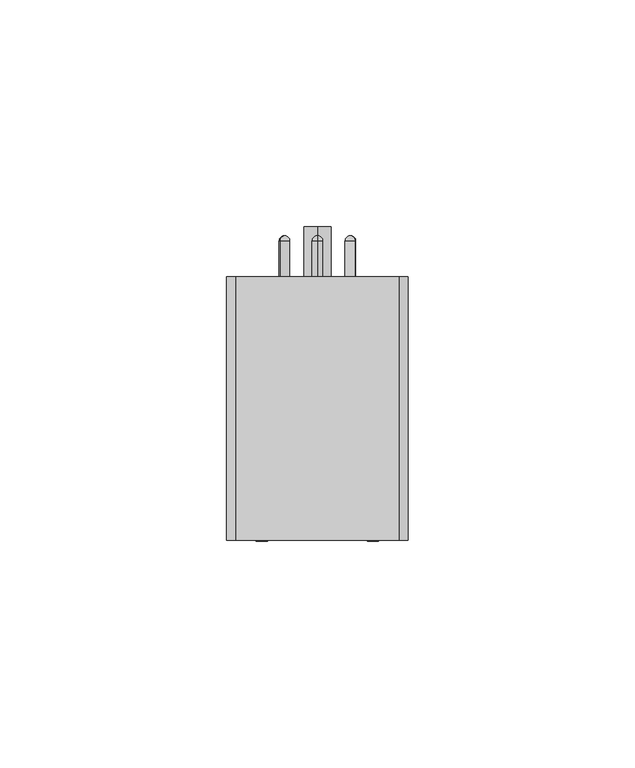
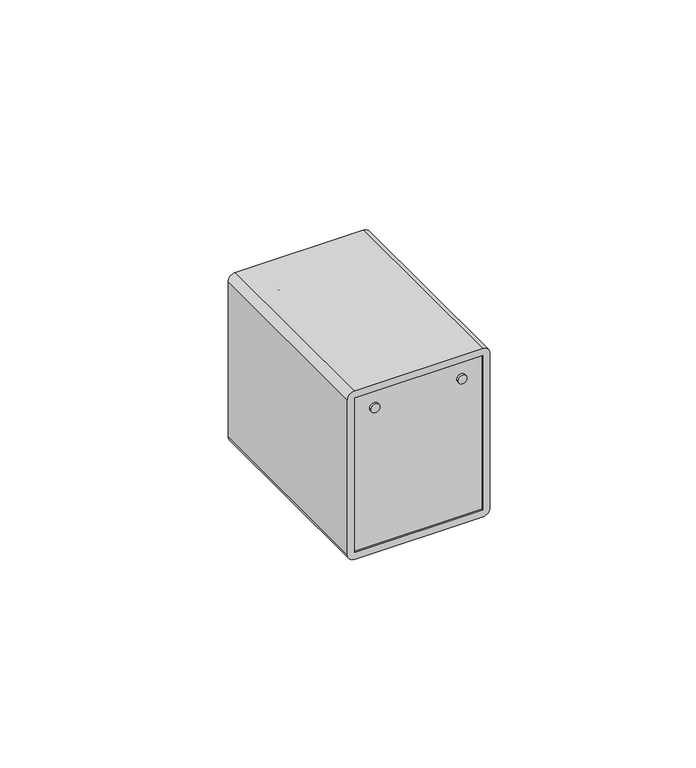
"""IFC4 building model written with IfcOpenShell, lengths in millimetres: proxy geometry, TDM_РЕЛЕ КОНТРОЛЯ УРОВНЯ СЕРИИ РКУ-01 : РКУ-01 230 В АС."""

from ifc_helpers import new_model, si_unit, point, frame, frame_2d, origin, place, context, project, spatial, polyline, circle_curve, ellipse_curve, trimmed, segment, composite_curve, outline, extrude, source, transform, mapped, element, save
from ifc_brep_helpers import plane_surface, cylinder_surface, revolved_surface, advanced_brep


def electrical_equipment_3d8fc4e4(model_context):
    return source(origin(), model_context, "Body", "SolidModel", [
        extrude(outline(composite_curve([segment(trimmed(circle_curve(frame_2d((17.9933038, -12.2388667)), 1.25), [point((17.9933038, -13.4888667))], [point((17.9933038, -10.9888667))], False, "CARTESIAN"), True, "CONTINUOUS"), segment(trimmed(circle_curve(frame_2d((17.9933038, -12.2388667)), 1.25), [point((17.9933038, -10.9888667))], [point((17.9933038, -13.4888667))], False, "CARTESIAN"), True, "CONTINUOUS")], self_intersect=False)), frame((0.0, -29.2003293, 0.0), z_axis=(0.0, 1.0, 0.0), x_axis=(0.0, 0.0, 1.0)), (0.0, 0.0, 1.0), 0.6913257),
        extrude(outline(composite_curve([segment(trimmed(circle_curve(frame_2d((17.9933038, 12.2388667)), 1.25), [point((17.9933038, 13.4888667))], [point((17.9933038, 10.9888667))], False, "CARTESIAN"), True, "CONTINUOUS"), segment(trimmed(circle_curve(frame_2d((17.9933038, 12.2388667)), 1.25), [point((17.9933038, 10.9888667))], [point((17.9933038, 13.4888667))], False, "CARTESIAN"), True, "CONTINUOUS")], self_intersect=False)), frame((0.0, -29.2003293, 0.0), z_axis=(0.0, 1.0, 0.0), x_axis=(0.0, 0.0, 1.0)), (0.0, 0.0, 1.0), 0.6913257),
        advanced_brep(
        [(6.2627831, 36.9318195, 3.6158195), (8.2791554, 36.9318195, 4.7799726), (7.2709693, 38.0410993, 4.1978961), (6.2627831, 29.0, 3.6158195), (8.2791554, 29.0, 4.7799726), (7.2709693, 29.0, 4.1978961)],
        [
            (0, 1, circle_curve(frame((7.2709693, 36.9318195, 4.1978961), z_axis=(0.0, 1.0, 0.0), x_axis=(0.8660254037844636, 0.0, 0.49999999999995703)), 1.1641531)),
            (1, 2, circle_curve(frame((7.3173709, 36.9318195, 4.2246861), z_axis=(-0.49999999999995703, 0.0, 0.8660254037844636), x_axis=(0.0, -1.0, 0.0)), 1.1105731)),
            (2, 0, circle_curve(frame((7.2245676, 36.9318195, 4.171106), z_axis=(-0.49999999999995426, 0.0, 0.8660254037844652), x_axis=(0.0, -1.0, 0.0)), 1.1105731)),
            (1, 0, circle_curve(frame((7.2709693, 36.9318195, 4.1978961), z_axis=(0.0, 1.0, 0.0), x_axis=(0.8660254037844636, 0.0, 0.49999999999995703)), 1.1641531)),
            (3, 4, circle_curve(frame((7.2709693, 29.0, 4.1978961), z_axis=(0.0, 1.0, 0.0), x_axis=(0.8660254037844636, 0.0, 0.49999999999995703)), 1.1641531)),
            (4, 1),
            (0, 3),
            (4, 3, circle_curve(frame((7.2709693, 29.0, 4.1978961), z_axis=(0.0, 1.0, 0.0), x_axis=(0.8660254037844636, 0.0, 0.49999999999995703)), 1.1641531)),
            (5, 4),
            (3, 5),
        ],
        [
            revolved_surface(trimmed(ellipse_curve(frame((7.3173709, 36.9318195, 4.2246861), z_axis=(0.49999999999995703, 0.0, -0.8660254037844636), x_axis=(0.0, -1.0, 0.0)), 1.1105731, 1.1105731), [point((7.2709693, 38.0410993, 4.1978961))], [point((8.2791554, 36.9318195, 4.7799726))], True, "CARTESIAN"), (7.2709693, 36.0076957, 4.1978961), (0.0, -1.0, 0.0)),
            cylinder_surface(frame((7.2709693, 36.0076957, 4.1978961), z_axis=(0.0, -1.0, 0.0), x_axis=(0.8660254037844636, 0.0, 0.49999999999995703)), 1.1641531),
            plane_surface(frame((7.2709693, 29.0, 4.1978961), z_axis=(0.0, -1.0000000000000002, 0.0), x_axis=(0.8660254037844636, 0.0, 0.49999999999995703))),
        ],
        [
            (0, [[1, 2, 3]]),
            (0, [[4, -3, -2]]),
            (1, [[5, 6, -1, 7]]),
            (1, [[8, -7, -4, -6]]),
            (2, [[9, -5, 10]]),
            (2, [[-10, -8, -9]]),
        ],
    ),
        advanced_brep(
        [(6.2627831, 36.9318195, -3.6158195), (8.2791554, 36.9318195, -4.7799726), (7.2709693, 38.0410993, -4.1978961), (6.2627831, 29.0, -3.6158195), (8.2791554, 29.0, -4.7799726), (7.2709693, 29.0, -4.1978961)],
        [
            (0, 1, circle_curve(frame((7.2709693, 36.9318195, -4.1978961), z_axis=(0.0, 1.0, 0.0), x_axis=(0.8660254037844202, 0.0, -0.5000000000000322)), 1.1641531)),
            (1, 2, circle_curve(frame((7.3173709, 36.9318195, -4.2246861), z_axis=(0.5000000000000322, 0.0, 0.8660254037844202), x_axis=(0.0, -1.0, 0.0)), 1.1105731)),
            (2, 0, circle_curve(frame((7.2245676, 36.9318195, -4.171106), z_axis=(0.500000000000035, 0.0, 0.8660254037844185), x_axis=(0.0, -1.0, 0.0)), 1.1105731)),
            (1, 0, circle_curve(frame((7.2709693, 36.9318195, -4.1978961), z_axis=(0.0, 1.0, 0.0), x_axis=(0.8660254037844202, 0.0, -0.5000000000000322)), 1.1641531)),
            (3, 4, circle_curve(frame((7.2709693, 29.0, -4.1978961), z_axis=(0.0, 1.0, 0.0), x_axis=(0.8660254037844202, 0.0, -0.5000000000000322)), 1.1641531)),
            (4, 1),
            (0, 3),
            (4, 3, circle_curve(frame((7.2709693, 29.0, -4.1978961), z_axis=(0.0, 1.0, 0.0), x_axis=(0.8660254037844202, 0.0, -0.5000000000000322)), 1.1641531)),
            (5, 4),
            (3, 5),
        ],
        [
            revolved_surface(trimmed(ellipse_curve(frame((7.3173709, 36.9318195, -4.2246861), z_axis=(-0.5000000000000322, 0.0, -0.8660254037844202), x_axis=(0.0, -1.0, 0.0)), 1.1105731, 1.1105731), [point((7.2709693, 38.0410993, -4.1978961))], [point((8.2791554, 36.9318195, -4.7799726))], True, "CARTESIAN"), (7.2709693, 36.0076957, -4.1978961), (0.0, -1.0, 0.0)),
            cylinder_surface(frame((7.2709693, 36.0076957, -4.1978961), z_axis=(0.0, -1.0, 0.0), x_axis=(0.8660254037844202, 0.0, -0.5000000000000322)), 1.1641531),
            plane_surface(frame((7.2709693, 29.0, -4.1978961), z_axis=(0.0, -1.0000000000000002, 0.0), x_axis=(0.8660254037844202, 0.0, -0.5000000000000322))),
        ],
        [
            (0, [[1, 2, 3]]),
            (0, [[4, -3, -2]]),
            (1, [[5, 6, -1, 7]]),
            (1, [[8, -7, -4, -6]]),
            (2, [[9, -5, 10]]),
            (2, [[-10, -8, -9]]),
        ],
    ),
        advanced_brep(
        [(0.0, 36.9318195, -7.231639), (0.0, 36.9318195, -9.5599453), (0.0, 38.0410993, -8.3957921), (0.0, 29.0, -7.231639), (0.0, 29.0, -9.5599453), (0.0, 29.0, -8.3957921)],
        [
            (0, 1, circle_curve(frame((0.0, 36.9318195, -8.3957921), z_axis=(0.0, 1.0, 0.0), x_axis=(0.0, 0.0, -1.0)), 1.1641531)),
            (1, 2, circle_curve(frame((0.0, 36.9318195, -8.4493722), z_axis=(1.0, 0.0, 0.0), x_axis=(0.0, -1.0, 0.0)), 1.1105731)),
            (2, 0, circle_curve(frame((0.0, 36.9318195, -8.3422121), z_axis=(1.0, 0.0, 0.0), x_axis=(0.0, -1.0, 0.0)), 1.1105731)),
            (1, 0, circle_curve(frame((0.0, 36.9318195, -8.3957921), z_axis=(0.0, 1.0, 0.0), x_axis=(0.0, 0.0, -1.0)), 1.1641531)),
            (3, 4, circle_curve(frame((0.0, 29.0, -8.3957921), z_axis=(0.0, 1.0, 0.0), x_axis=(0.0, 0.0, -1.0)), 1.1641531)),
            (4, 1),
            (0, 3),
            (4, 3, circle_curve(frame((0.0, 29.0, -8.3957921), z_axis=(0.0, 1.0, 0.0), x_axis=(0.0, 0.0, -1.0)), 1.1641531)),
            (5, 4),
            (3, 5),
        ],
        [
            revolved_surface(trimmed(ellipse_curve(frame((0.0, 36.9318195, -8.4493722), z_axis=(-1.0, 0.0, 0.0), x_axis=(0.0, -1.0, 0.0)), 1.1105731, 1.1105731), [point((0.0, 38.0410993, -8.3957921))], [point((0.0, 36.9318195, -9.5599453))], True, "CARTESIAN"), (0.0, 36.0076957, -8.3957921), (0.0, -1.0, 0.0)),
            cylinder_surface(frame((0.0, 36.0076957, -8.3957921), z_axis=(0.0, -1.0, 0.0), x_axis=(0.0, 0.0, -1.0)), 1.1641531),
            plane_surface(frame((0.0, 29.0, -8.3957921), z_axis=(0.0, -1.0, 0.0), x_axis=(0.0, 0.0, -1.0))),
        ],
        [
            (0, [[1, 2, 3]]),
            (0, [[4, -3, -2]]),
            (1, [[5, 6, -1, 7]]),
            (1, [[8, -7, -4, -6]]),
            (2, [[9, -5, 10]]),
            (2, [[-10, -8, -9]]),
        ],
    ),
        advanced_brep(
        [(-6.2627831, 36.9318195, -3.6158195), (-8.2791554, 36.9318195, -4.7799726), (-7.2709693, 38.0410993, -4.1978961), (-6.2627831, 29.0, -3.6158195), (-8.2791554, 29.0, -4.7799726), (-7.2709693, 29.0, -4.1978961)],
        [
            (0, 1, circle_curve(frame((-7.2709693, 36.9318195, -4.1978961), z_axis=(0.0, 1.0, 0.0), x_axis=(-0.8660254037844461, 0.0, -0.4999999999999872)), 1.1641531)),
            (1, 2, circle_curve(frame((-7.3173709, 36.9318195, -4.2246861), z_axis=(0.4999999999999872, 0.0, -0.8660254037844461), x_axis=(0.0, -1.0, 0.0)), 1.1105731)),
            (2, 0, circle_curve(frame((-7.2245676, 36.9318195, -4.171106), z_axis=(0.4999999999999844, 0.0, -0.8660254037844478), x_axis=(0.0, -1.0, 0.0)), 1.1105731)),
            (1, 0, circle_curve(frame((-7.2709693, 36.9318195, -4.1978961), z_axis=(0.0, 1.0, 0.0), x_axis=(-0.8660254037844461, 0.0, -0.4999999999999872)), 1.1641531)),
            (3, 4, circle_curve(frame((-7.2709693, 29.0, -4.1978961), z_axis=(0.0, 1.0, 0.0), x_axis=(-0.8660254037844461, 0.0, -0.4999999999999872)), 1.1641531)),
            (4, 1),
            (0, 3),
            (4, 3, circle_curve(frame((-7.2709693, 29.0, -4.1978961), z_axis=(0.0, 1.0, 0.0), x_axis=(-0.8660254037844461, 0.0, -0.4999999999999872)), 1.1641531)),
            (5, 4),
            (3, 5),
        ],
        [
            revolved_surface(trimmed(ellipse_curve(frame((-7.3173709, 36.9318195, -4.2246861), z_axis=(-0.4999999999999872, 0.0, 0.8660254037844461), x_axis=(0.0, -1.0, 0.0)), 1.1105731, 1.1105731), [point((-7.2709693, 38.0410993, -4.1978961))], [point((-8.2791554, 36.9318195, -4.7799726))], True, "CARTESIAN"), (-7.2709693, 36.0076957, -4.1978961), (0.0, -1.0, 0.0)),
            cylinder_surface(frame((-7.2709693, 36.0076957, -4.1978961), z_axis=(0.0, -1.0, 0.0), x_axis=(-0.8660254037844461, 0.0, -0.4999999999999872)), 1.1641531),
            plane_surface(frame((-7.2709693, 29.0, -4.1978961), z_axis=(0.0, -1.0000000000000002, 0.0), x_axis=(-0.8660254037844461, 0.0, -0.4999999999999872))),
        ],
        [
            (0, [[1, 2, 3]]),
            (0, [[4, -3, -2]]),
            (1, [[5, 6, -1, 7]]),
            (1, [[8, -7, -4, -6]]),
            (2, [[9, -5, 10]]),
            (2, [[-10, -8, -9]]),
        ],
    ),
        advanced_brep(
        [(-6.2627831, 36.9318195, 3.6158195), (-8.2791554, 36.9318195, 4.7799726), (-7.2709693, 38.0410993, 4.1978961), (-6.2627831, 29.0, 3.6158195), (-8.2791554, 29.0, 4.7799726), (-7.2709693, 29.0, 4.1978961)],
        [
            (0, 1, circle_curve(frame((-7.2709693, 36.9318195, 4.1978961), z_axis=(0.0, 1.0, 0.0), x_axis=(-0.8660254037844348, 0.0, 0.5000000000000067)), 1.1641531)),
            (1, 2, circle_curve(frame((-7.3173709, 36.9318195, 4.2246861), z_axis=(-0.5000000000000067, 0.0, -0.8660254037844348), x_axis=(0.0, -1.0, 0.0)), 1.1105731)),
            (2, 0, circle_curve(frame((-7.2245676, 36.9318195, 4.171106), z_axis=(-0.5000000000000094, 0.0, -0.8660254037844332), x_axis=(0.0, -1.0, 0.0)), 1.1105731)),
            (1, 0, circle_curve(frame((-7.2709693, 36.9318195, 4.1978961), z_axis=(0.0, 1.0, 0.0), x_axis=(-0.8660254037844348, 0.0, 0.5000000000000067)), 1.1641531)),
            (3, 4, circle_curve(frame((-7.2709693, 29.0, 4.1978961), z_axis=(0.0, 1.0, 0.0), x_axis=(-0.8660254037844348, 0.0, 0.5000000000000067)), 1.1641531)),
            (4, 1),
            (0, 3),
            (4, 3, circle_curve(frame((-7.2709693, 29.0, 4.1978961), z_axis=(0.0, 1.0, 0.0), x_axis=(-0.8660254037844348, 0.0, 0.5000000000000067)), 1.1641531)),
            (5, 4),
            (3, 5),
        ],
        [
            revolved_surface(trimmed(ellipse_curve(frame((-7.3173709, 36.9318195, 4.2246861), z_axis=(0.5000000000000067, 0.0, 0.8660254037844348), x_axis=(0.0, -1.0, 0.0)), 1.1105731, 1.1105731), [point((-7.2709693, 38.0410993, 4.1978961))], [point((-8.2791554, 36.9318195, 4.7799726))], True, "CARTESIAN"), (-7.2709693, 36.0076957, 4.1978961), (0.0, -1.0, 0.0)),
            cylinder_surface(frame((-7.2709693, 36.0076957, 4.1978961), z_axis=(0.0, -1.0, 0.0), x_axis=(-0.8660254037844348, 0.0, 0.5000000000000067)), 1.1641531),
            plane_surface(frame((-7.2709693, 29.0, 4.1978961), z_axis=(0.0, -1.0, 0.0), x_axis=(-0.8660254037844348, 0.0, 0.5000000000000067))),
        ],
        [
            (0, [[1, 2, 3]]),
            (0, [[4, -3, -2]]),
            (1, [[5, 6, -1, 7]]),
            (1, [[8, -7, -4, -6]]),
            (2, [[9, -5, 10]]),
            (2, [[-10, -8, -9]]),
        ],
    ),
        advanced_brep(
        [(0.0, 36.9318195, 7.231639), (0.0, 36.9318195, 9.5599453), (0.0, 38.0410993, 8.3957921), (0.0, 29.0, 7.231639), (0.0, 29.0, 9.5599453), (0.0, 29.0, 8.3957921)],
        [
            (0, 1, circle_curve(frame((0.0, 36.9318195, 8.3957921), z_axis=(0.0, 1.0, 0.0), x_axis=(0.0, 0.0, 1.0)), 1.1641531)),
            (1, 2, circle_curve(frame((0.0, 36.9318195, 8.4493722), z_axis=(-1.0, 0.0, 0.0), x_axis=(0.0, -1.0, 0.0)), 1.1105731)),
            (2, 0, circle_curve(frame((0.0, 36.9318195, 8.3422121), z_axis=(-1.0, 0.0, 0.0), x_axis=(0.0, -1.0, 0.0)), 1.1105731)),
            (1, 0, circle_curve(frame((0.0, 36.9318195, 8.3957921), z_axis=(0.0, 1.0, 0.0), x_axis=(0.0, 0.0, 1.0)), 1.1641531)),
            (3, 4, circle_curve(frame((0.0, 29.0, 8.3957921), z_axis=(0.0, 1.0, 0.0), x_axis=(0.0, 0.0, 1.0)), 1.1641531)),
            (4, 1),
            (0, 3),
            (4, 3, circle_curve(frame((0.0, 29.0, 8.3957921), z_axis=(0.0, 1.0, 0.0), x_axis=(0.0, 0.0, 1.0)), 1.1641531)),
            (5, 4),
            (3, 5),
        ],
        [
            revolved_surface(trimmed(ellipse_curve(frame((0.0, 36.9318195, 8.4493722), z_axis=(1.0, 0.0, 0.0), x_axis=(0.0, -1.0, 0.0)), 1.1105731, 1.1105731), [point((0.0, 38.0410993, 8.3957921))], [point((0.0, 36.9318195, 9.5599453))], True, "CARTESIAN"), (0.0, 36.0076957, 8.3957921), (0.0, -1.0, 0.0)),
            cylinder_surface(frame((0.0, 36.0076957, 8.3957921), z_axis=(0.0, -1.0, 0.0), x_axis=(0.0, 0.0, 1.0)), 1.1641531),
            plane_surface(frame((0.0, 29.0, 8.3957921), z_axis=(0.0, -1.0, 0.0), x_axis=(0.0, 0.0, 1.0))),
        ],
        [
            (0, [[1, 2, 3]]),
            (0, [[4, -3, -2]]),
            (1, [[5, 6, -1, 7]]),
            (1, [[8, -7, -4, -6]]),
            (2, [[9, -5, 10]]),
            (2, [[-10, -8, -9]]),
        ],
    ),
        advanced_brep(
        [(0.0, 40.0, -3.0), (0.0, 40.0, 3.0), (0.0, 40.0, 0.0), (0.0, 28.173155, -3.0), (0.0, 28.173155, 3.0), (0.0, 28.173155, 0.0)],
        [
            (0, 1, circle_curve(frame((0.0, 40.0, 0.0), z_axis=(0.0, 1.0, 0.0), x_axis=(0.0, 0.0, 1.0)), 3.0)),
            (1, 2),
            (2, 0),
            (1, 0, circle_curve(frame((0.0, 40.0, 0.0), z_axis=(0.0, 1.0, 0.0), x_axis=(0.0, 0.0, 1.0)), 3.0)),
            (3, 4, circle_curve(frame((0.0, 28.173155, 0.0), z_axis=(0.0, 1.0, 0.0), x_axis=(0.0, 0.0, 1.0)), 3.0)),
            (4, 1),
            (0, 3),
            (4, 3, circle_curve(frame((0.0, 28.173155, 0.0), z_axis=(0.0, 1.0, 0.0), x_axis=(0.0, 0.0, 1.0)), 3.0)),
            (5, 4),
            (3, 5),
        ],
        [
            plane_surface(frame((0.0, 40.0, 0.0), z_axis=(0.0, 1.0, 0.0), x_axis=(0.0, 0.0, 1.0))),
            cylinder_surface(frame((0.0, 38.2709729, 0.0), z_axis=(0.0, -1.0, 0.0), x_axis=(0.0, 0.0, 1.0)), 3.0),
            plane_surface(frame((0.0, 28.173155, 0.0), z_axis=(0.0, -1.0, 0.0), x_axis=(0.0, 0.0, 1.0))),
        ],
        [
            (0, [[1, 2, 3]]),
            (0, [[4, -3, -2]]),
            (1, [[5, 6, -1, 7]]),
            (1, [[8, -7, -4, -6]]),
            (2, [[9, -5, 10]]),
            (2, [[-10, -8, -9]]),
        ],
    ),
        extrude(outline(polyline([(18.0, -28.5090037), (-18.0, -28.5090037), (-18.0, 29.0), (18.0, 29.0), (18.0, -28.5090037)])), frame((0.0, 0.0, -23.0), z_axis=(0.0, 0.0, 1.0), x_axis=(1.0, 0.0, 0.0)), (0.0, 0.0, 1.0), 46.0),
        extrude(outline(composite_curve([segment(polyline([(25.0, 18.0), (25.0, -18.0)]), True, "CONTINUOUS"), segment(trimmed(circle_curve(frame_2d((23.0, -18.0)), 2.0), [point((25.0, -18.0))], [point((23.0, -20.0))], False, "CARTESIAN"), True, "CONTINUOUS"), segment(polyline([(23.0, -20.0), (-23.0, -20.0)]), True, "CONTINUOUS"), segment(trimmed(circle_curve(frame_2d((-23.0, -18.0)), 2.0), [point((-23.0, -20.0))], [point((-25.0, -18.0))], False, "CARTESIAN"), True, "CONTINUOUS"), segment(polyline([(-25.0, -18.0), (-25.0, 18.0)]), True, "CONTINUOUS"), segment(trimmed(circle_curve(frame_2d((-23.0, 18.0)), 2.0), [point((-25.0, 18.0))], [point((-23.0, 20.0))], False, "CARTESIAN"), True, "CONTINUOUS"), segment(polyline([(-23.0, 20.0), (23.0, 20.0)]), True, "CONTINUOUS"), segment(trimmed(circle_curve(frame_2d((23.0, 18.0)), 2.0), [point((23.0, 20.0))], [point((25.0, 18.0))], False, "CARTESIAN"), True, "CONTINUOUS")], self_intersect=False), holes=[polyline([(-23.0, 18.0), (-23.0, -18.0), (23.0, -18.0), (23.0, 18.0), (-23.0, 18.0)])]), frame((0.0, -29.0, 0.0), z_axis=(0.0, 1.0, 0.0), x_axis=(0.0, 0.0, 1.0)), (0.0, 0.0, 1.0), 58.0),
        extrude(outline(composite_curve([segment(trimmed(circle_curve(frame_2d((17.9933038, -12.2388667)), 1.25), [point((17.9933038, -13.4888667))], [point((17.9933038, -10.9888667))], False, "CARTESIAN"), True, "CONTINUOUS"), segment(trimmed(circle_curve(frame_2d((17.9933038, -12.2388667)), 1.25), [point((17.9933038, -10.9888667))], [point((17.9933038, -13.4888667))], False, "CARTESIAN"), True, "CONTINUOUS")], self_intersect=False)), frame((0.0, -29.2003293, 0.0), z_axis=(0.0, 1.0, 0.0), x_axis=(0.0, 0.0, 1.0)), (0.0, 0.0, 1.0), 0.6913257),
        extrude(outline(composite_curve([segment(trimmed(circle_curve(frame_2d((17.9933038, 12.2388667)), 1.25), [point((17.9933038, 13.4888667))], [point((17.9933038, 10.9888667))], False, "CARTESIAN"), True, "CONTINUOUS"), segment(trimmed(circle_curve(frame_2d((17.9933038, 12.2388667)), 1.25), [point((17.9933038, 10.9888667))], [point((17.9933038, 13.4888667))], False, "CARTESIAN"), True, "CONTINUOUS")], self_intersect=False)), frame((0.0, -29.2003293, 0.0), z_axis=(0.0, 1.0, 0.0), x_axis=(0.0, 0.0, 1.0)), (0.0, 0.0, 1.0), 0.6913257),
        advanced_brep(
        [(6.2627831, 36.9318195, 3.6158195), (8.2791554, 36.9318195, 4.7799726), (7.2709693, 38.0410993, 4.1978961), (6.2627831, 29.0, 3.6158195), (8.2791554, 29.0, 4.7799726), (7.2709693, 29.0, 4.1978961)],
        [
            (0, 1, circle_curve(frame((7.2709693, 36.9318195, 4.1978961), z_axis=(0.0, 1.0, 0.0), x_axis=(0.8660254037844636, 0.0, 0.49999999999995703)), 1.1641531)),
            (1, 2, circle_curve(frame((7.3173709, 36.9318195, 4.2246861), z_axis=(-0.49999999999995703, 0.0, 0.8660254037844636), x_axis=(0.0, -1.0, 0.0)), 1.1105731)),
            (2, 0, circle_curve(frame((7.2245676, 36.9318195, 4.171106), z_axis=(-0.49999999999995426, 0.0, 0.8660254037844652), x_axis=(0.0, -1.0, 0.0)), 1.1105731)),
            (1, 0, circle_curve(frame((7.2709693, 36.9318195, 4.1978961), z_axis=(0.0, 1.0, 0.0), x_axis=(0.8660254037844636, 0.0, 0.49999999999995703)), 1.1641531)),
            (3, 4, circle_curve(frame((7.2709693, 29.0, 4.1978961), z_axis=(0.0, 1.0, 0.0), x_axis=(0.8660254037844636, 0.0, 0.49999999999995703)), 1.1641531)),
            (4, 1),
            (0, 3),
            (4, 3, circle_curve(frame((7.2709693, 29.0, 4.1978961), z_axis=(0.0, 1.0, 0.0), x_axis=(0.8660254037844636, 0.0, 0.49999999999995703)), 1.1641531)),
            (5, 4),
            (3, 5),
        ],
        [
            revolved_surface(trimmed(ellipse_curve(frame((7.3173709, 36.9318195, 4.2246861), z_axis=(0.49999999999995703, 0.0, -0.8660254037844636), x_axis=(0.0, -1.0, 0.0)), 1.1105731, 1.1105731), [point((7.2709693, 38.0410993, 4.1978961))], [point((8.2791554, 36.9318195, 4.7799726))], True, "CARTESIAN"), (7.2709693, 36.0076957, 4.1978961), (0.0, -1.0, 0.0)),
            cylinder_surface(frame((7.2709693, 36.0076957, 4.1978961), z_axis=(0.0, -1.0, 0.0), x_axis=(0.8660254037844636, 0.0, 0.49999999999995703)), 1.1641531),
            plane_surface(frame((7.2709693, 29.0, 4.1978961), z_axis=(0.0, -1.0000000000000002, 0.0), x_axis=(0.8660254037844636, 0.0, 0.49999999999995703))),
        ],
        [
            (0, [[1, 2, 3]]),
            (0, [[4, -3, -2]]),
            (1, [[5, 6, -1, 7]]),
            (1, [[8, -7, -4, -6]]),
            (2, [[9, -5, 10]]),
            (2, [[-10, -8, -9]]),
        ],
    ),
        advanced_brep(
        [(6.2627831, 36.9318195, -3.6158195), (8.2791554, 36.9318195, -4.7799726), (7.2709693, 38.0410993, -4.1978961), (6.2627831, 29.0, -3.6158195), (8.2791554, 29.0, -4.7799726), (7.2709693, 29.0, -4.1978961)],
        [
            (0, 1, circle_curve(frame((7.2709693, 36.9318195, -4.1978961), z_axis=(0.0, 1.0, 0.0), x_axis=(0.8660254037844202, 0.0, -0.5000000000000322)), 1.1641531)),
            (1, 2, circle_curve(frame((7.3173709, 36.9318195, -4.2246861), z_axis=(0.5000000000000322, 0.0, 0.8660254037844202), x_axis=(0.0, -1.0, 0.0)), 1.1105731)),
            (2, 0, circle_curve(frame((7.2245676, 36.9318195, -4.171106), z_axis=(0.500000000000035, 0.0, 0.8660254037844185), x_axis=(0.0, -1.0, 0.0)), 1.1105731)),
            (1, 0, circle_curve(frame((7.2709693, 36.9318195, -4.1978961), z_axis=(0.0, 1.0, 0.0), x_axis=(0.8660254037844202, 0.0, -0.5000000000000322)), 1.1641531)),
            (3, 4, circle_curve(frame((7.2709693, 29.0, -4.1978961), z_axis=(0.0, 1.0, 0.0), x_axis=(0.8660254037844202, 0.0, -0.5000000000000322)), 1.1641531)),
            (4, 1),
            (0, 3),
            (4, 3, circle_curve(frame((7.2709693, 29.0, -4.1978961), z_axis=(0.0, 1.0, 0.0), x_axis=(0.8660254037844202, 0.0, -0.5000000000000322)), 1.1641531)),
            (5, 4),
            (3, 5),
        ],
        [
            revolved_surface(trimmed(ellipse_curve(frame((7.3173709, 36.9318195, -4.2246861), z_axis=(-0.5000000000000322, 0.0, -0.8660254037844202), x_axis=(0.0, -1.0, 0.0)), 1.1105731, 1.1105731), [point((7.2709693, 38.0410993, -4.1978961))], [point((8.2791554, 36.9318195, -4.7799726))], True, "CARTESIAN"), (7.2709693, 36.0076957, -4.1978961), (0.0, -1.0, 0.0)),
            cylinder_surface(frame((7.2709693, 36.0076957, -4.1978961), z_axis=(0.0, -1.0, 0.0), x_axis=(0.8660254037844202, 0.0, -0.5000000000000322)), 1.1641531),
            plane_surface(frame((7.2709693, 29.0, -4.1978961), z_axis=(0.0, -1.0000000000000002, 0.0), x_axis=(0.8660254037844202, 0.0, -0.5000000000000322))),
        ],
        [
            (0, [[1, 2, 3]]),
            (0, [[4, -3, -2]]),
            (1, [[5, 6, -1, 7]]),
            (1, [[8, -7, -4, -6]]),
            (2, [[9, -5, 10]]),
            (2, [[-10, -8, -9]]),
        ],
    ),
        advanced_brep(
        [(0.0, 36.9318195, -7.231639), (0.0, 36.9318195, -9.5599453), (0.0, 38.0410993, -8.3957921), (0.0, 29.0, -7.231639), (0.0, 29.0, -9.5599453), (0.0, 29.0, -8.3957921)],
        [
            (0, 1, circle_curve(frame((0.0, 36.9318195, -8.3957921), z_axis=(0.0, 1.0, 0.0), x_axis=(0.0, 0.0, -1.0)), 1.1641531)),
            (1, 2, circle_curve(frame((0.0, 36.9318195, -8.4493722), z_axis=(1.0, 0.0, 0.0), x_axis=(0.0, -1.0, 0.0)), 1.1105731)),
            (2, 0, circle_curve(frame((0.0, 36.9318195, -8.3422121), z_axis=(1.0, 0.0, 0.0), x_axis=(0.0, -1.0, 0.0)), 1.1105731)),
            (1, 0, circle_curve(frame((0.0, 36.9318195, -8.3957921), z_axis=(0.0, 1.0, 0.0), x_axis=(0.0, 0.0, -1.0)), 1.1641531)),
            (3, 4, circle_curve(frame((0.0, 29.0, -8.3957921), z_axis=(0.0, 1.0, 0.0), x_axis=(0.0, 0.0, -1.0)), 1.1641531)),
            (4, 1),
            (0, 3),
            (4, 3, circle_curve(frame((0.0, 29.0, -8.3957921), z_axis=(0.0, 1.0, 0.0), x_axis=(0.0, 0.0, -1.0)), 1.1641531)),
            (5, 4),
            (3, 5),
        ],
        [
            revolved_surface(trimmed(ellipse_curve(frame((0.0, 36.9318195, -8.4493722), z_axis=(-1.0, 0.0, 0.0), x_axis=(0.0, -1.0, 0.0)), 1.1105731, 1.1105731), [point((0.0, 38.0410993, -8.3957921))], [point((0.0, 36.9318195, -9.5599453))], True, "CARTESIAN"), (0.0, 36.0076957, -8.3957921), (0.0, -1.0, 0.0)),
            cylinder_surface(frame((0.0, 36.0076957, -8.3957921), z_axis=(0.0, -1.0, 0.0), x_axis=(0.0, 0.0, -1.0)), 1.1641531),
            plane_surface(frame((0.0, 29.0, -8.3957921), z_axis=(0.0, -1.0, 0.0), x_axis=(0.0, 0.0, -1.0))),
        ],
        [
            (0, [[1, 2, 3]]),
            (0, [[4, -3, -2]]),
            (1, [[5, 6, -1, 7]]),
            (1, [[8, -7, -4, -6]]),
            (2, [[9, -5, 10]]),
            (2, [[-10, -8, -9]]),
        ],
    ),
        advanced_brep(
        [(-6.2627831, 36.9318195, -3.6158195), (-8.2791554, 36.9318195, -4.7799726), (-7.2709693, 38.0410993, -4.1978961), (-6.2627831, 29.0, -3.6158195), (-8.2791554, 29.0, -4.7799726), (-7.2709693, 29.0, -4.1978961)],
        [
            (0, 1, circle_curve(frame((-7.2709693, 36.9318195, -4.1978961), z_axis=(0.0, 1.0, 0.0), x_axis=(-0.8660254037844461, 0.0, -0.4999999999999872)), 1.1641531)),
            (1, 2, circle_curve(frame((-7.3173709, 36.9318195, -4.2246861), z_axis=(0.4999999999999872, 0.0, -0.8660254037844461), x_axis=(0.0, -1.0, 0.0)), 1.1105731)),
            (2, 0, circle_curve(frame((-7.2245676, 36.9318195, -4.171106), z_axis=(0.4999999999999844, 0.0, -0.8660254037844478), x_axis=(0.0, -1.0, 0.0)), 1.1105731)),
            (1, 0, circle_curve(frame((-7.2709693, 36.9318195, -4.1978961), z_axis=(0.0, 1.0, 0.0), x_axis=(-0.8660254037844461, 0.0, -0.4999999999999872)), 1.1641531)),
            (3, 4, circle_curve(frame((-7.2709693, 29.0, -4.1978961), z_axis=(0.0, 1.0, 0.0), x_axis=(-0.8660254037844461, 0.0, -0.4999999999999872)), 1.1641531)),
            (4, 1),
            (0, 3),
            (4, 3, circle_curve(frame((-7.2709693, 29.0, -4.1978961), z_axis=(0.0, 1.0, 0.0), x_axis=(-0.8660254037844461, 0.0, -0.4999999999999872)), 1.1641531)),
            (5, 4),
            (3, 5),
        ],
        [
            revolved_surface(trimmed(ellipse_curve(frame((-7.3173709, 36.9318195, -4.2246861), z_axis=(-0.4999999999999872, 0.0, 0.8660254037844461), x_axis=(0.0, -1.0, 0.0)), 1.1105731, 1.1105731), [point((-7.2709693, 38.0410993, -4.1978961))], [point((-8.2791554, 36.9318195, -4.7799726))], True, "CARTESIAN"), (-7.2709693, 36.0076957, -4.1978961), (0.0, -1.0, 0.0)),
            cylinder_surface(frame((-7.2709693, 36.0076957, -4.1978961), z_axis=(0.0, -1.0, 0.0), x_axis=(-0.8660254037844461, 0.0, -0.4999999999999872)), 1.1641531),
            plane_surface(frame((-7.2709693, 29.0, -4.1978961), z_axis=(0.0, -1.0000000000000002, 0.0), x_axis=(-0.8660254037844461, 0.0, -0.4999999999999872))),
        ],
        [
            (0, [[1, 2, 3]]),
            (0, [[4, -3, -2]]),
            (1, [[5, 6, -1, 7]]),
            (1, [[8, -7, -4, -6]]),
            (2, [[9, -5, 10]]),
            (2, [[-10, -8, -9]]),
        ],
    ),
        advanced_brep(
        [(-6.2627831, 36.9318195, 3.6158195), (-8.2791554, 36.9318195, 4.7799726), (-7.2709693, 38.0410993, 4.1978961), (-6.2627831, 29.0, 3.6158195), (-8.2791554, 29.0, 4.7799726), (-7.2709693, 29.0, 4.1978961)],
        [
            (0, 1, circle_curve(frame((-7.2709693, 36.9318195, 4.1978961), z_axis=(0.0, 1.0, 0.0), x_axis=(-0.8660254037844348, 0.0, 0.5000000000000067)), 1.1641531)),
            (1, 2, circle_curve(frame((-7.3173709, 36.9318195, 4.2246861), z_axis=(-0.5000000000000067, 0.0, -0.8660254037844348), x_axis=(0.0, -1.0, 0.0)), 1.1105731)),
            (2, 0, circle_curve(frame((-7.2245676, 36.9318195, 4.171106), z_axis=(-0.5000000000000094, 0.0, -0.8660254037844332), x_axis=(0.0, -1.0, 0.0)), 1.1105731)),
            (1, 0, circle_curve(frame((-7.2709693, 36.9318195, 4.1978961), z_axis=(0.0, 1.0, 0.0), x_axis=(-0.8660254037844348, 0.0, 0.5000000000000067)), 1.1641531)),
            (3, 4, circle_curve(frame((-7.2709693, 29.0, 4.1978961), z_axis=(0.0, 1.0, 0.0), x_axis=(-0.8660254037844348, 0.0, 0.5000000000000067)), 1.1641531)),
            (4, 1),
            (0, 3),
            (4, 3, circle_curve(frame((-7.2709693, 29.0, 4.1978961), z_axis=(0.0, 1.0, 0.0), x_axis=(-0.8660254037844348, 0.0, 0.5000000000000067)), 1.1641531)),
            (5, 4),
            (3, 5),
        ],
        [
            revolved_surface(trimmed(ellipse_curve(frame((-7.3173709, 36.9318195, 4.2246861), z_axis=(0.5000000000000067, 0.0, 0.8660254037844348), x_axis=(0.0, -1.0, 0.0)), 1.1105731, 1.1105731), [point((-7.2709693, 38.0410993, 4.1978961))], [point((-8.2791554, 36.9318195, 4.7799726))], True, "CARTESIAN"), (-7.2709693, 36.0076957, 4.1978961), (0.0, -1.0, 0.0)),
            cylinder_surface(frame((-7.2709693, 36.0076957, 4.1978961), z_axis=(0.0, -1.0, 0.0), x_axis=(-0.8660254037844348, 0.0, 0.5000000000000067)), 1.1641531),
            plane_surface(frame((-7.2709693, 29.0, 4.1978961), z_axis=(0.0, -1.0, 0.0), x_axis=(-0.8660254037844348, 0.0, 0.5000000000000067))),
        ],
        [
            (0, [[1, 2, 3]]),
            (0, [[4, -3, -2]]),
            (1, [[5, 6, -1, 7]]),
            (1, [[8, -7, -4, -6]]),
            (2, [[9, -5, 10]]),
            (2, [[-10, -8, -9]]),
        ],
    ),
        advanced_brep(
        [(0.0, 36.9318195, 7.231639), (0.0, 36.9318195, 9.5599453), (0.0, 38.0410993, 8.3957921), (0.0, 29.0, 7.231639), (0.0, 29.0, 9.5599453), (0.0, 29.0, 8.3957921)],
        [
            (0, 1, circle_curve(frame((0.0, 36.9318195, 8.3957921), z_axis=(0.0, 1.0, 0.0), x_axis=(0.0, 0.0, 1.0)), 1.1641531)),
            (1, 2, circle_curve(frame((0.0, 36.9318195, 8.4493722), z_axis=(-1.0, 0.0, 0.0), x_axis=(0.0, -1.0, 0.0)), 1.1105731)),
            (2, 0, circle_curve(frame((0.0, 36.9318195, 8.3422121), z_axis=(-1.0, 0.0, 0.0), x_axis=(0.0, -1.0, 0.0)), 1.1105731)),
            (1, 0, circle_curve(frame((0.0, 36.9318195, 8.3957921), z_axis=(0.0, 1.0, 0.0), x_axis=(0.0, 0.0, 1.0)), 1.1641531)),
            (3, 4, circle_curve(frame((0.0, 29.0, 8.3957921), z_axis=(0.0, 1.0, 0.0), x_axis=(0.0, 0.0, 1.0)), 1.1641531)),
            (4, 1),
            (0, 3),
            (4, 3, circle_curve(frame((0.0, 29.0, 8.3957921), z_axis=(0.0, 1.0, 0.0), x_axis=(0.0, 0.0, 1.0)), 1.1641531)),
            (5, 4),
            (3, 5),
        ],
        [
            revolved_surface(trimmed(ellipse_curve(frame((0.0, 36.9318195, 8.4493722), z_axis=(1.0, 0.0, 0.0), x_axis=(0.0, -1.0, 0.0)), 1.1105731, 1.1105731), [point((0.0, 38.0410993, 8.3957921))], [point((0.0, 36.9318195, 9.5599453))], True, "CARTESIAN"), (0.0, 36.0076957, 8.3957921), (0.0, -1.0, 0.0)),
            cylinder_surface(frame((0.0, 36.0076957, 8.3957921), z_axis=(0.0, -1.0, 0.0), x_axis=(0.0, 0.0, 1.0)), 1.1641531),
            plane_surface(frame((0.0, 29.0, 8.3957921), z_axis=(0.0, -1.0, 0.0), x_axis=(0.0, 0.0, 1.0))),
        ],
        [
            (0, [[1, 2, 3]]),
            (0, [[4, -3, -2]]),
            (1, [[5, 6, -1, 7]]),
            (1, [[8, -7, -4, -6]]),
            (2, [[9, -5, 10]]),
            (2, [[-10, -8, -9]]),
        ],
    ),
        advanced_brep(
        [(0.0, 40.0, -3.0), (0.0, 40.0, 3.0), (0.0, 40.0, 0.0), (0.0, 28.173155, -3.0), (0.0, 28.173155, 3.0), (0.0, 28.173155, 0.0)],
        [
            (0, 1, circle_curve(frame((0.0, 40.0, 0.0), z_axis=(0.0, 1.0, 0.0), x_axis=(0.0, 0.0, 1.0)), 3.0)),
            (1, 2),
            (2, 0),
            (1, 0, circle_curve(frame((0.0, 40.0, 0.0), z_axis=(0.0, 1.0, 0.0), x_axis=(0.0, 0.0, 1.0)), 3.0)),
            (3, 4, circle_curve(frame((0.0, 28.173155, 0.0), z_axis=(0.0, 1.0, 0.0), x_axis=(0.0, 0.0, 1.0)), 3.0)),
            (4, 1),
            (0, 3),
            (4, 3, circle_curve(frame((0.0, 28.173155, 0.0), z_axis=(0.0, 1.0, 0.0), x_axis=(0.0, 0.0, 1.0)), 3.0)),
            (5, 4),
            (3, 5),
        ],
        [
            plane_surface(frame((0.0, 40.0, 0.0), z_axis=(0.0, 1.0, 0.0), x_axis=(0.0, 0.0, 1.0))),
            cylinder_surface(frame((0.0, 38.2709729, 0.0), z_axis=(0.0, -1.0, 0.0), x_axis=(0.0, 0.0, 1.0)), 3.0),
            plane_surface(frame((0.0, 28.173155, 0.0), z_axis=(0.0, -1.0, 0.0), x_axis=(0.0, 0.0, 1.0))),
        ],
        [
            (0, [[1, 2, 3]]),
            (0, [[4, -3, -2]]),
            (1, [[5, 6, -1, 7]]),
            (1, [[8, -7, -4, -6]]),
            (2, [[9, -5, 10]]),
            (2, [[-10, -8, -9]]),
        ],
    ),
        extrude(outline(polyline([(18.0, -28.5090037), (-18.0, -28.5090037), (-18.0, 29.0), (18.0, 29.0), (18.0, -28.5090037)])), frame((0.0, 0.0, -23.0), z_axis=(0.0, 0.0, 1.0), x_axis=(1.0, 0.0, 0.0)), (0.0, 0.0, 1.0), 46.0),
        extrude(outline(composite_curve([segment(polyline([(25.0, 18.0), (25.0, -18.0)]), True, "CONTINUOUS"), segment(trimmed(circle_curve(frame_2d((23.0, -18.0)), 2.0), [point((25.0, -18.0))], [point((23.0, -20.0))], False, "CARTESIAN"), True, "CONTINUOUS"), segment(polyline([(23.0, -20.0), (-23.0, -20.0)]), True, "CONTINUOUS"), segment(trimmed(circle_curve(frame_2d((-23.0, -18.0)), 2.0), [point((-23.0, -20.0))], [point((-25.0, -18.0))], False, "CARTESIAN"), True, "CONTINUOUS"), segment(polyline([(-25.0, -18.0), (-25.0, 18.0)]), True, "CONTINUOUS"), segment(trimmed(circle_curve(frame_2d((-23.0, 18.0)), 2.0), [point((-25.0, 18.0))], [point((-23.0, 20.0))], False, "CARTESIAN"), True, "CONTINUOUS"), segment(polyline([(-23.0, 20.0), (23.0, 20.0)]), True, "CONTINUOUS"), segment(trimmed(circle_curve(frame_2d((23.0, 18.0)), 2.0), [point((23.0, 20.0))], [point((25.0, 18.0))], False, "CARTESIAN"), True, "CONTINUOUS")], self_intersect=False), holes=[polyline([(-23.0, 18.0), (-23.0, -18.0), (23.0, -18.0), (23.0, 18.0), (-23.0, 18.0)])]), frame((0.0, -29.0, 0.0), z_axis=(0.0, 1.0, 0.0), x_axis=(0.0, 0.0, 1.0)), (0.0, 0.0, 1.0), 58.0),
    ])


if __name__ == "__main__":
    model = new_model("IFC4")
    model_context = context("Model", 3, world=origin())
    ifc_project = project(units=[si_unit("LENGTHUNIT", "METRE", prefix="MILLI")], contexts=[model_context])
    site = spatial("IfcSite", under=ifc_project)
    building = spatial("IfcBuilding", under=site)
    placement = place(None, origin())
    electrical_equipment_shape = electrical_equipment_3d8fc4e4(model_context)
    element("IfcBuildingElementProxy", 1, Name="TDM_РЕЛЕ КОНТРОЛЯ УРОВНЯ СЕРИИ РКУ-01 : РКУ-01 230 В АС", ObjectType="TDM_РЕЛЕ КОНТРОЛЯ УРОВНЯ СЕРИИ РКУ-01 : РКУ-01 230 В АС", at=placement, inside=building, context=model_context, shape_type="MappedRepresentation", body=[
        mapped(electrical_equipment_shape, transform((0.0, 0.0, 0.0), x_axis=(1.0, 0.0, 0.0), y_axis=(0.0, 1.0, 0.0), z_axis=(0.0, 0.0, 1.0))),
    ])
    save(model, "model.ifc")
